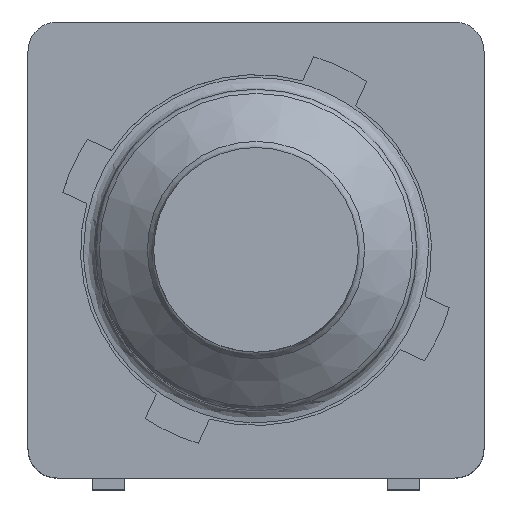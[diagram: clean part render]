
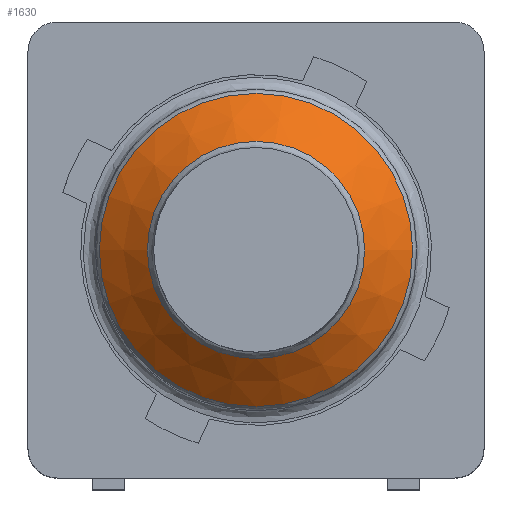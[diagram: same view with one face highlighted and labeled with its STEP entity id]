
A CAD part, top view. The second image highlights one B-rep face of the part: STEP entity #1630.
In plain terms, the highlighted conical face has half-angle 49.97 degrees and reference radius 2.679 mm.
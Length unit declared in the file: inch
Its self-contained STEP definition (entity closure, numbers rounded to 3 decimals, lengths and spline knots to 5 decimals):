
#397 = FACE_OUTER_BOUND ( 'NONE', #991, .T. ) ;
#486 = AXIS2_PLACEMENT_3D ( 'NONE', #795, #815, #3773 ) ;
#583 = FACE_BOUND ( 'NONE', #2137, .T. ) ;
#623 = ORIENTED_EDGE ( 'NONE', *, *, #2299, .F. ) ;
#795 = CARTESIAN_POINT ( 'NONE',  ( 0., 0., 0.11771 ) ) ;
#815 = DIRECTION ( 'NONE',  ( 0., 0., -1. ) ) ;
#848 = AXIS2_PLACEMENT_3D ( 'NONE', #1566, #3641, #2435 ) ;
#872 = CIRCLE ( 'NONE', #848, 0.07311 ) ;
#991 = EDGE_LOOP ( 'NONE', ( #623 ) ) ;
#1178 = CARTESIAN_POINT ( 'NONE',  ( -0.07311, 0., 0.14489 ) ) ;
#1548 = VERTEX_POINT ( 'NONE', #1769 ) ;
#1566 = CARTESIAN_POINT ( 'NONE',  ( 0., 0., 0.14489 ) ) ;
#1630 = ADVANCED_FACE ( 'NONE', ( #397, #583 ), #3651, .T. ) ;
#1707 = CARTESIAN_POINT ( 'NONE',  ( 0., 0., 0.11771 ) ) ;
#1729 = DIRECTION ( 'NONE',  ( 0., 0., -1. ) ) ;
#1769 = CARTESIAN_POINT ( 'NONE',  ( 0.10546, 0., 0.11771 ) ) ;
#2137 = EDGE_LOOP ( 'NONE', ( #2320 ) ) ;
#2299 = EDGE_CURVE ( 'NONE', #1548, #1548, #3568, .T. ) ;
#2320 = ORIENTED_EDGE ( 'NONE', *, *, #2512, .T. ) ;
#2435 = DIRECTION ( 'NONE',  ( -1., 0., 0. ) ) ;
#2512 = EDGE_CURVE ( 'NONE', #2668, #2668, #872, .T. ) ;
#2597 = DIRECTION ( 'NONE',  ( 1., 0., 0. ) ) ;
#2668 = VERTEX_POINT ( 'NONE', #1178 ) ;
#2708 = AXIS2_PLACEMENT_3D ( 'NONE', #1707, #1729, #2597 ) ;
#3568 = CIRCLE ( 'NONE', #2708, 0.10546 ) ;
#3641 = DIRECTION ( 'NONE',  ( 0., 0., -1. ) ) ;
#3651 = CONICAL_SURFACE ( 'NONE', #486, 0.10546, 0.872 ) ;
#3773 = DIRECTION ( 'NONE',  ( -1., 0., 0. ) ) ;
